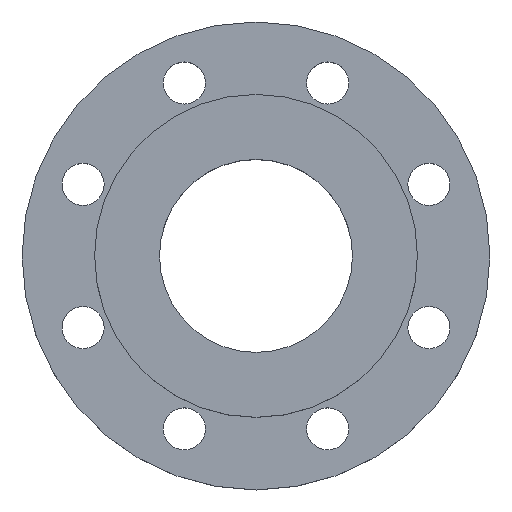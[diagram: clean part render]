
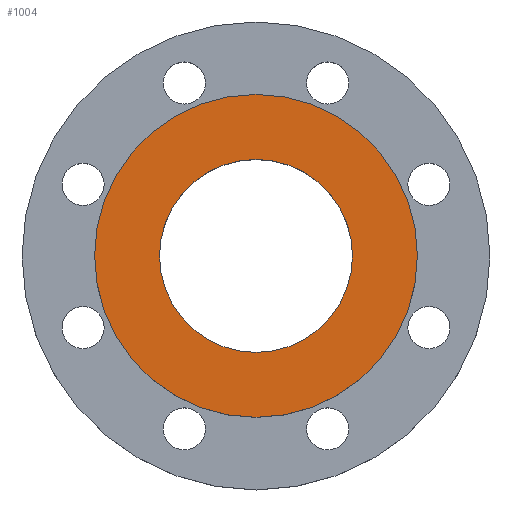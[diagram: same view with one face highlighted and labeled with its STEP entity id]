
A CAD part, top view. The second image highlights one B-rep face of the part: STEP entity #1004.
In plain terms, the highlighted planar face has unit normal (0, 0, 1).
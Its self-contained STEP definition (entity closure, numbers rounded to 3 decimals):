
#9 = DIRECTION ( 'NONE',  ( 1., 0., 0. ) ) ;
#10 = DIRECTION ( 'NONE',  ( 0., 0., 1. ) ) ;
#11 = CARTESIAN_POINT ( 'NONE',  ( 0., 0., 18. ) ) ;
#66 = CARTESIAN_POINT ( 'NONE',  ( 69., 0., 18. ) ) ;
#107 = DIRECTION ( 'NONE',  ( 1., 0., 0. ) ) ;
#109 = DIRECTION ( 'NONE',  ( 0., 0., 1. ) ) ;
#110 = CARTESIAN_POINT ( 'NONE',  ( 41.25, 0., 18. ) ) ;
#112 = PLANE ( 'NONE',  #797 ) ;
#114 = FACE_BOUND ( 'NONE', #1049, .T. ) ;
#115 = FACE_OUTER_BOUND ( 'NONE', #1029, .T. ) ;
#212 = CIRCLE ( 'NONE', #214, 41.25 ) ;
#214 = AXIS2_PLACEMENT_3D ( 'NONE', #766, #679, #681 ) ;
#233 = CARTESIAN_POINT ( 'NONE',  ( -41.25, 0., 18. ) ) ;
#235 = CARTESIAN_POINT ( 'NONE',  ( -69., 0., 18. ) ) ;
#244 = CARTESIAN_POINT ( 'NONE',  ( 41.25, 0., 18. ) ) ;
#353 = DIRECTION ( 'NONE',  ( 1., 0., 0. ) ) ;
#354 = DIRECTION ( 'NONE',  ( 0., 0., 1. ) ) ;
#355 = CARTESIAN_POINT ( 'NONE',  ( 0., 0., 18. ) ) ;
#356 = DIRECTION ( 'NONE',  ( 1., 0., 0. ) ) ;
#357 = DIRECTION ( 'NONE',  ( 0., 0., 1. ) ) ;
#358 = CARTESIAN_POINT ( 'NONE',  ( 0., 0., 18. ) ) ;
#360 = EDGE_CURVE ( 'NONE', #933, #917, #212, .T. ) ;
#371 = CIRCLE ( 'NONE', #992, 69. ) ;
#679 = DIRECTION ( 'NONE',  ( 0., 0., 1. ) ) ;
#681 = DIRECTION ( 'NONE',  ( 1., 0., 0. ) ) ;
#766 = CARTESIAN_POINT ( 'NONE',  ( 0., 0., 18. ) ) ;
#797 = AXIS2_PLACEMENT_3D ( 'NONE', #110, #109, #107 ) ;
#820 = EDGE_CURVE ( 'NONE', #917, #933, #1001, .T. ) ;
#822 = EDGE_CURVE ( 'NONE', #924, #1050, #371, .T. ) ;
#848 = AXIS2_PLACEMENT_3D ( 'NONE', #11, #10, #9 ) ;
#885 = AXIS2_PLACEMENT_3D ( 'NONE', #358, #357, #356 ) ;
#906 = ORIENTED_EDGE ( 'NONE', *, *, #1201, .T. ) ;
#907 = ORIENTED_EDGE ( 'NONE', *, *, #822, .T. ) ;
#908 = ORIENTED_EDGE ( 'NONE', *, *, #820, .F. ) ;
#909 = ORIENTED_EDGE ( 'NONE', *, *, #360, .F. ) ;
#917 = VERTEX_POINT ( 'NONE', #244 ) ;
#924 = VERTEX_POINT ( 'NONE', #235 ) ;
#933 = VERTEX_POINT ( 'NONE', #233 ) ;
#992 = AXIS2_PLACEMENT_3D ( 'NONE', #355, #354, #353 ) ;
#1001 = CIRCLE ( 'NONE', #885, 41.25 ) ;
#1004 = ADVANCED_FACE ( 'NONE', ( #115, #114 ), #112, .T. ) ;
#1029 = EDGE_LOOP ( 'NONE', ( #906, #907 ) ) ;
#1049 = EDGE_LOOP ( 'NONE', ( #908, #909 ) ) ;
#1050 = VERTEX_POINT ( 'NONE', #66 ) ;
#1092 = CIRCLE ( 'NONE', #848, 69. ) ;
#1201 = EDGE_CURVE ( 'NONE', #1050, #924, #1092, .T. ) ;
